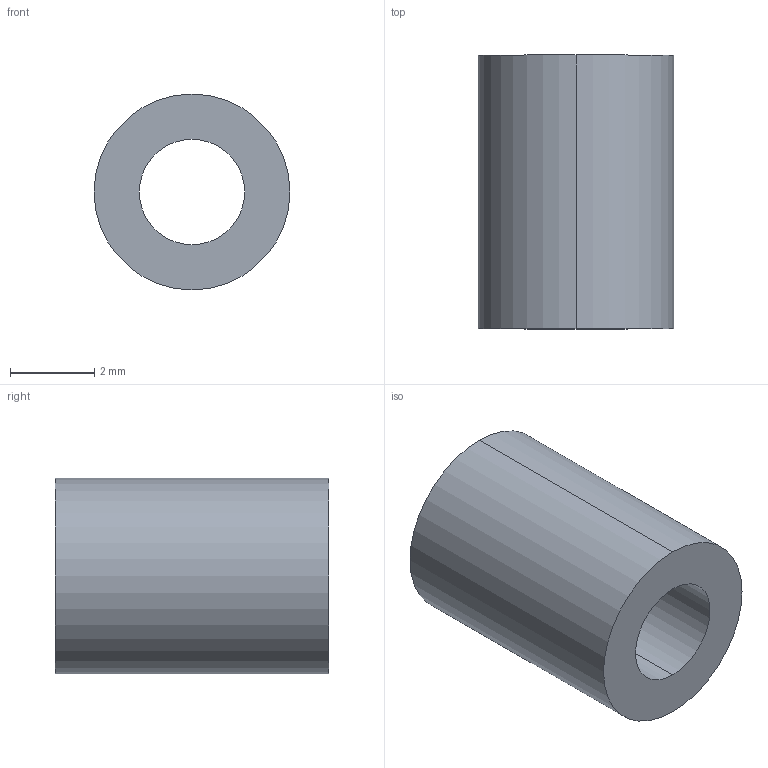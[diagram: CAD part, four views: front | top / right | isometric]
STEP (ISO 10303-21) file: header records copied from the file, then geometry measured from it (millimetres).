
FILE_DESCRIPTION (( 'STEP AP214' ), '1' );
FILE_NAME ('Fijacion tornillo PP63A.STEP', '2017-12-14T10:43:10', ( 'aaa' ), ( '' ), 'SwSTEP 2.0', 'SolidWorks 2013', '' );
FILE_SCHEMA (( 'AUTOMOTIVE_DESIGN' ));
Length unit declared in the file: millimetre
Products named in the file (1): Fijacion tornillo PP63A
Bounding box: 4.65 x 6.5 x 4.65 mm (x, y, z)
Volume: 78.5 mm3; surface area: 170.2 mm2
Topology: 1 solids, 1 shells, 6 faces, 12 edges, 8 vertices
Faces by surface type: cylinder 4, plane 2
Entity records: 202 total; most frequent: DIRECTION 34, CARTESIAN_POINT 27, ORIENTED_EDGE 24, AXIS2_PLACEMENT_3D 15, EDGE_CURVE 12, EDGE_LOOP 8, VERTEX_POINT 8, CIRCLE 8
